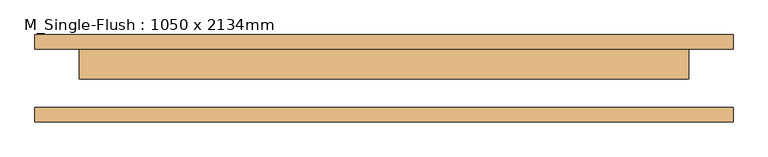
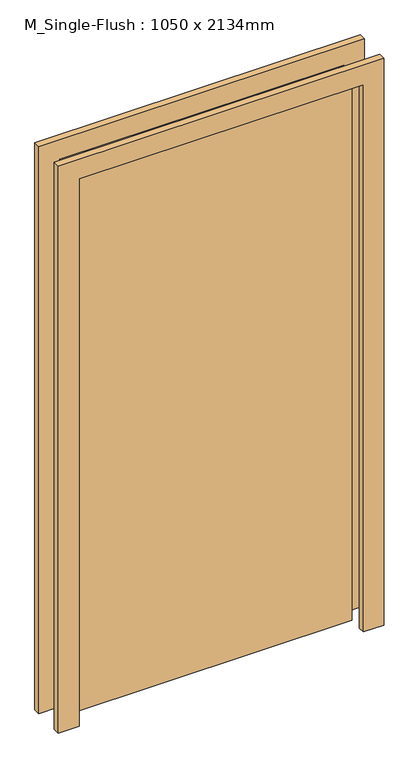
"""IFC4 building model written with IfcOpenShell, lengths in millimetres: door geometry, M_Single-Flush : 1050 x 2134mm."""

from ifc_helpers import new_model, si_unit, frame, origin, origin_with_axes, place, context, project, spatial, polyline, outline, extrude, source, transform, mapped, element, save


def m_single_flush_1050_x_2134mm_707e642e(model_context):
    return source(origin(), model_context, "Body", "SweptSolid", [
        extrude(outline(polyline([(2210.0, -601.0), (0.0, -601.0), (0.0, -525.0), (2134.0, -525.0), (2134.0, 525.0), (0.0, 525.0), (0.0, 601.0), (2210.0, 601.0), (2210.0, -601.0)])), frame((0.0, 50.0, 0.0), z_axis=(0.0, 1.0, 0.0), x_axis=(0.0, 0.0, 1.0)), (0.0, 0.0, 1.0), 25.0),
        extrude(outline(polyline([(2210.0, 601.0), (2210.0, -601.0), (0.0, -601.0), (0.0, -525.0), (2134.0, -525.0), (2134.0, 525.0), (0.0, 525.0), (0.0, 601.0), (2210.0, 601.0)])), frame((0.0, -75.0, 0.0), z_axis=(0.0, 1.0, 0.0), x_axis=(0.0, 0.0, 1.0)), (0.0, 0.0, 1.0), 25.0),
        extrude(outline(polyline([(525.0, -1.0), (-525.0, -1.0), (-525.0, 50.0), (525.0, 50.0), (525.0, -1.0)])), origin_with_axes(), (0.0, 0.0, 1.0), 2134.0),
    ])


if __name__ == "__main__":
    model = new_model("IFC4")
    model_context = context("Model", 3, world=origin())
    ifc_project = project(units=[si_unit("LENGTHUNIT", "METRE", prefix="MILLI")], contexts=[model_context])
    site = spatial("IfcSite", under=ifc_project)
    building = spatial("IfcBuilding", under=site)
    placement = place(None, origin())
    m_single_flush_1050_x_2134mm_shape = m_single_flush_1050_x_2134mm_707e642e(model_context)
    element("IfcDoor", 1, ObjectType="M_Single-Flush : 1050 x 2134mm", at=placement, inside=building, context=model_context, shape_type="MappedRepresentation", body=[
        mapped(m_single_flush_1050_x_2134mm_shape, transform((0.0, 0.0, 0.0), x_axis=(1.0, 0.0, 0.0), y_axis=(0.0, 1.0, 0.0), z_axis=(0.0, 0.0, 1.0))),
    ])
    save(model, "model.ifc")
